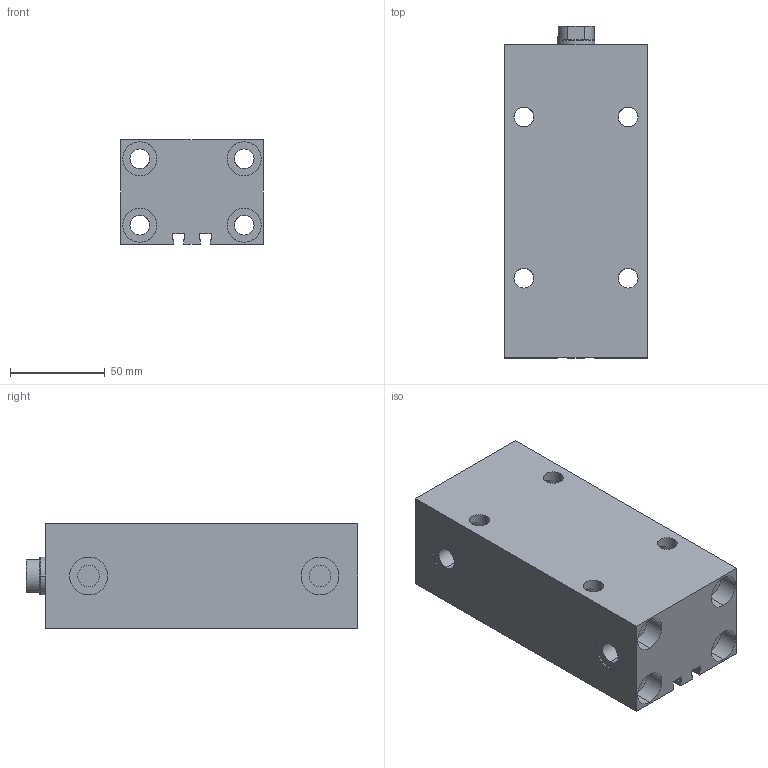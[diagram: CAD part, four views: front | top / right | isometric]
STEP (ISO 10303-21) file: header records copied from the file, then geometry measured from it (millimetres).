
FILE_DESCRIPTION (( 'STEP AP203' ), '1' );
FILE_NAME ('GERMA_Blockzylinder_700-032-100.STEP', '2016-07-22T09:04:25', ( '' ), ( '' ), 'SwSTEP 2.0', 'SolidWorks 2015', '' );
FILE_SCHEMA (( 'CONFIG_CONTROL_DESIGN' ));
Length unit declared in the file: millimetre
Products named in the file (3): GH-700-032_GH-700-032-100; Kolben_MT 70x-032_Kolben_MT DU.32-Hub100-IG; GERMA_Blockzylinder_700-032-100
Assembly tree (2 placements, depth 2):
  GERMA_Blockzylinder_700-032-100
    GH-700-032_GH-700-032-100
    Kolben_MT 70x-032_Kolben_MT DU.32-Hub100-IG
Bounding box: 75 x 175 x 55 mm (x, y, z)
Volume: 534139.4 mm3; surface area: 110517.1 mm2
Topology: 2 solids, 2 shells, 156 faces, 382 edges, 230 vertices
Faces by surface type: cylinder 95, plane 47, cone 14
Entity records: 4870 total; most frequent: CARTESIAN_POINT 959, DIRECTION 771, ORIENTED_EDGE 752, EDGE_CURVE 376, AXIS2_PLACEMENT_3D 298, VERTEX_POINT 230, EDGE_LOOP 194, VECTOR 175
